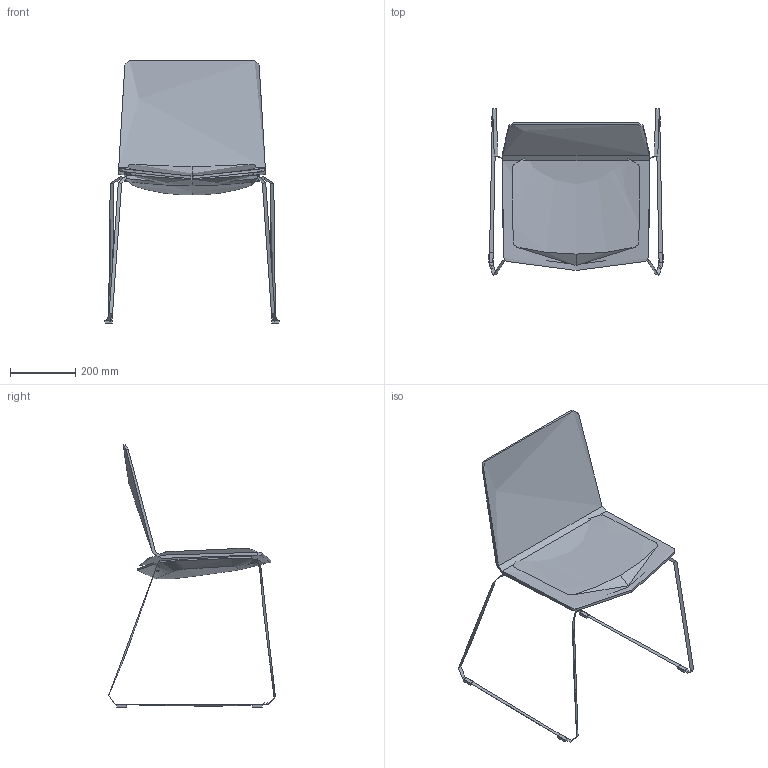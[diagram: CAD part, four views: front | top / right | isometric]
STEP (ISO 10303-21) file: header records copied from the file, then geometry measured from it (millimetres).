
FILE_DESCRIPTION(/* description */ (''),/* implementation_level */ '2;1');
FILE_NAME(/* name */ 'SKYFRE~3',/* time_stamp */ '2016-02-19T12:54:08+01:00',/* author */ (''),/* organization */ (''),/* preprocessor_version */ 'ST-DEVELOPER v15',/* originating_system */ '',/* authorisation */ '');
FILE_SCHEMA (('CONFIG_CONTROL_DESIGN'));
Length unit declared in the file: millimetre
Products named in the file (1): Document
Bounding box: 533.75 x 510.54 x 803.23 mm (x, y, z)
Volume: 3497493.1 mm3; surface area: 1209297.5 mm2
Topology: 11 solids, 17 shells, 144 faces, 315 edges, 192 vertices
Faces by surface type: bspline 106, plane 38
Entity records: 9900 total; most frequent: CARTESIAN_POINT 7962, ORIENTED_EDGE 592, EDGE_CURVE 312, VERTEX_POINT 192, ADVANCED_FACE 144, FACE_OUTER_BOUND 144, EDGE_LOOP 144, B_SPLINE_CURVE_WITH_KNOTS 126
